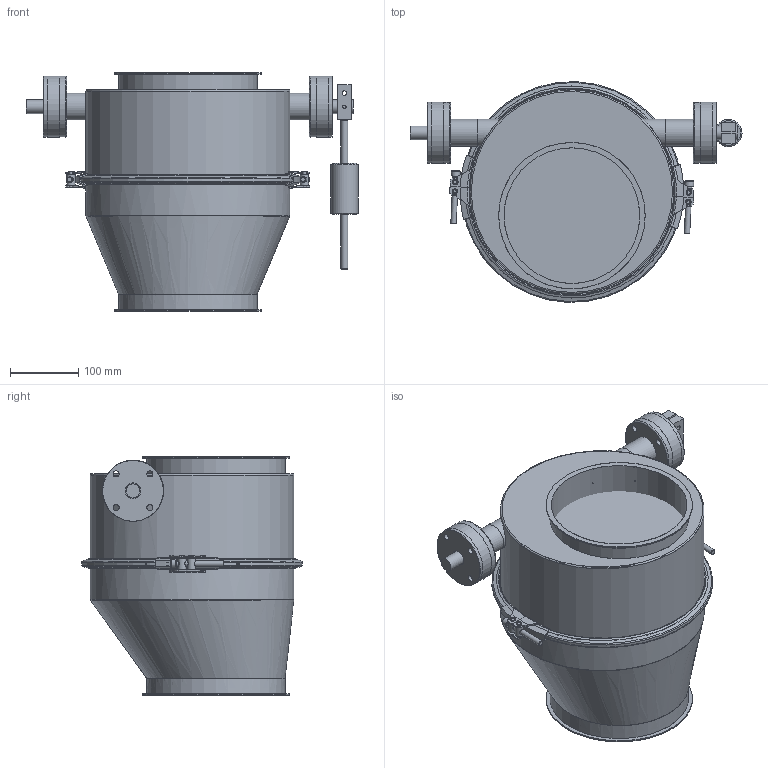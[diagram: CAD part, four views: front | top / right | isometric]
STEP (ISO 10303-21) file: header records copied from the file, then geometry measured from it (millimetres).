
FILE_DESCRIPTION((''),'2;1');
FILE_NAME('U:\Wolfgang\Marcel-3D\fertig\Kapitel 8\2021175.stp','2012-01-13T11:09:09',('iwienholt'),(''),'Autodesk Inventor 2010','Autodesk Inventor 2010','');
FILE_SCHEMA(('AUTOMOTIVE_DESIGN { 1 0 10303 214 1 1 1 1 }'));
Length unit declared in the file: millimetre
Products named in the file (14): 2021175; Wellenende D20; Buchse D20 90-50; LagerdeckelD20; PendelkugellagerD20; Hebel D20; WelleDN200; 2011175-1; 3012056; 3022055-1; Verschluss b=324; Verschlussrolle; VerschlussrolleGewinde; ISO 4762 M8 x 70
Assembly tree (21 placements, depth 3):
  2021175
    Wellenende D20  x2
      Buchse D20 90-50
      LagerdeckelD20
      PendelkugellagerD20
    Hebel D20
    WelleDN200
    2011175-1
    3012056
      3022055-1  x2
      Verschluss b=324  x4
      Verschlussrolle  x2
      VerschlussrolleGewinde  x2
      ISO 4762 M8 x 70  x2
Bounding box: 487 x 323.67 x 350 mm (x, y, z)
Volume: 1009201 mm3; surface area: 1484392.6 mm2
Topology: 21 solids, 21 shells, 552 faces, 1391 edges, 919 vertices
Faces by surface type: cylinder 176, plane 163, bspline 118, cone 72, torus 23
Full cylindrical faces by diameter (mm): 5 x8, 6 x2, 8 x10, 9 x1, 10 x2, 12 x4, 13 x2, 20 x1, 20.5 x4, 23 x2, 30 x2, 40 x7, 47 x2, 90 x6, 199 x2, 199.2 x1, 202.8 x3, 203 x3, 214.8 x2, 215 x2, 295 x1, 295.2 x1, 298.8 x2, 299 x2, 310.8 x1, 311 x1
Entity records: 10356 total; most frequent: CARTESIAN_POINT 4486, DIRECTION 1162, ORIENTED_EDGE 986, AXIS2_PLACEMENT_3D 501, EDGE_CURVE 493, EDGE_LOOP 426, VERTEX_POINT 375, CIRCLE 259
